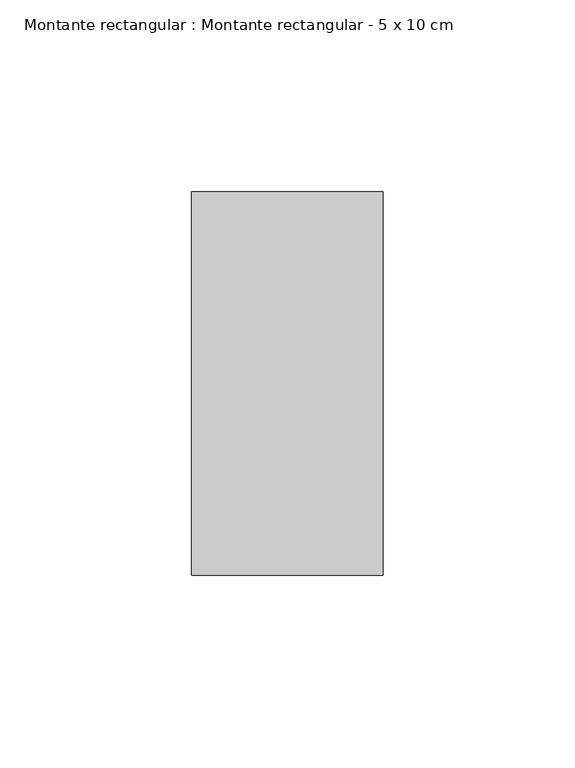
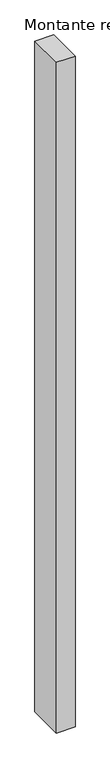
"""IFC4 building model written with IfcOpenShell, lengths in millimetres: member geometry, Montante rectangular : Montante rectangular - 5 x 10 cm."""

from ifc_helpers import new_model, si_unit, frame, origin, place, context, project, spatial, polyline, outline, extrude, source, transform, mapped, element, save


def montante_rectangular_montante_rectangular_5_x_10_cm_1d1cb2fc(model_context):
    return source(origin(), model_context, "Body", "SweptSolid", [
        extrude(outline(polyline([(0.0, 50.0), (0.0, -50.0), (-50.0, -50.0), (-50.0, 50.0), (0.0, 50.0)])), frame((0.0, 0.0, -1904.016286), z_axis=(0.0, 0.0, 1.0), x_axis=(1.0, 0.0, 0.0)), (0.0, 0.0, 1.0), 1904.016286),
    ])


if __name__ == "__main__":
    model = new_model("IFC4")
    model_context = context("Model", 3, world=origin())
    ifc_project = project(units=[si_unit("LENGTHUNIT", "METRE", prefix="MILLI")], contexts=[model_context])
    site = spatial("IfcSite", under=ifc_project)
    building = spatial("IfcBuilding", under=site)
    placement = place(None, origin())
    montante_rectangular_montante_rectangular_5_x_10_cm_shape = montante_rectangular_montante_rectangular_5_x_10_cm_1d1cb2fc(model_context)
    element("IfcMember", 1, ObjectType="Montante rectangular : Montante rectangular - 5 x 10 cm", at=placement, inside=building, context=model_context, shape_type="MappedRepresentation", body=[
        mapped(montante_rectangular_montante_rectangular_5_x_10_cm_shape, transform((0.0, 0.0, 0.0), x_axis=(1.0, 0.0, 0.0), y_axis=(0.0, 1.0, 0.0), z_axis=(0.0, 0.0, 1.0))),
    ])
    save(model, "model.ifc")
